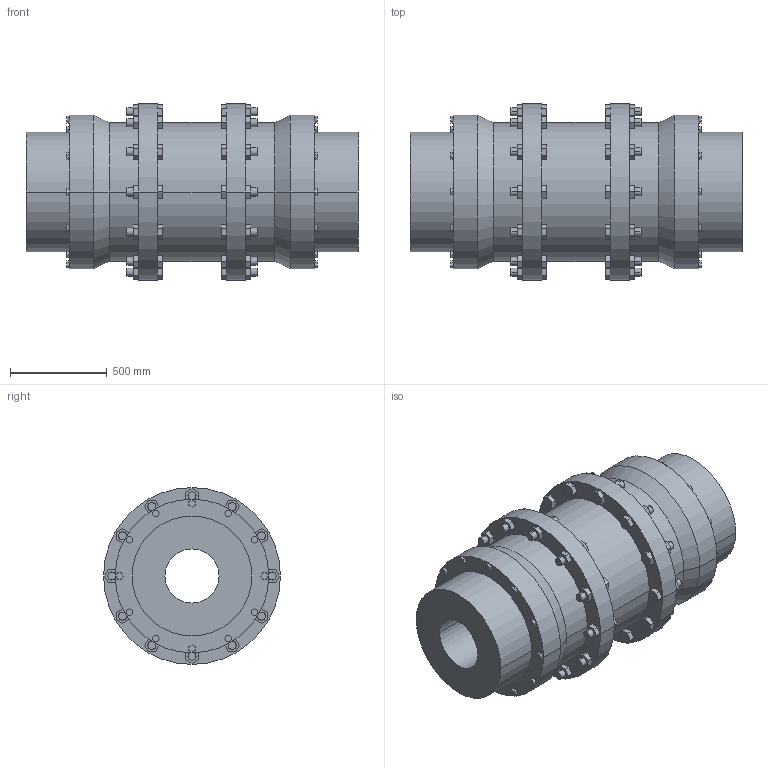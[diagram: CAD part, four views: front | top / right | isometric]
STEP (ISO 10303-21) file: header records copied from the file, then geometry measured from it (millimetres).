
FILE_DESCRIPTION((''),'2;1');
FILE_NAME('A19030100-0_ASM','2018-10-17T',('AB_Roschiwal'),('RENK AG'),'PRO/ENGINEER BY PARAMETRIC TECHNOLOGY CORPORATION, 2015440','PRO/ENGINEER BY PARAMETRIC TECHNOLOGY CORPORATION, 2015440','');
FILE_SCHEMA(('CONFIG_CONTROL_DESIGN'));
Length unit declared in the file: millimetre
Products named in the file (3): SBLK375_GEHAEUSE; SBLK375_NABE; A19030100-0_ASM
Assembly tree (3 placements, depth 2):
  A19030100-0_ASM
    SBLK375_GEHAEUSE
    SBLK375_NABE  x2
Bounding box: 1719 x 915 x 915 mm (x, y, z)
Volume: 393933803.9 mm3; surface area: 11027007 mm2
Topology: 3 solids, 3 shells, 632 faces, 1552 edges, 1032 vertices
Faces by surface type: plane 544, cylinder 84, cone 4
Entity records: 18164 total; most frequent: CARTESIAN_POINT 3170, ORIENTED_EDGE 3056, DIRECTION 2932, EDGE_CURVE 1528, VECTOR 1376, LINE 1376, VERTEX_POINT 1016, AXIS2_PLACEMENT_3D 778
